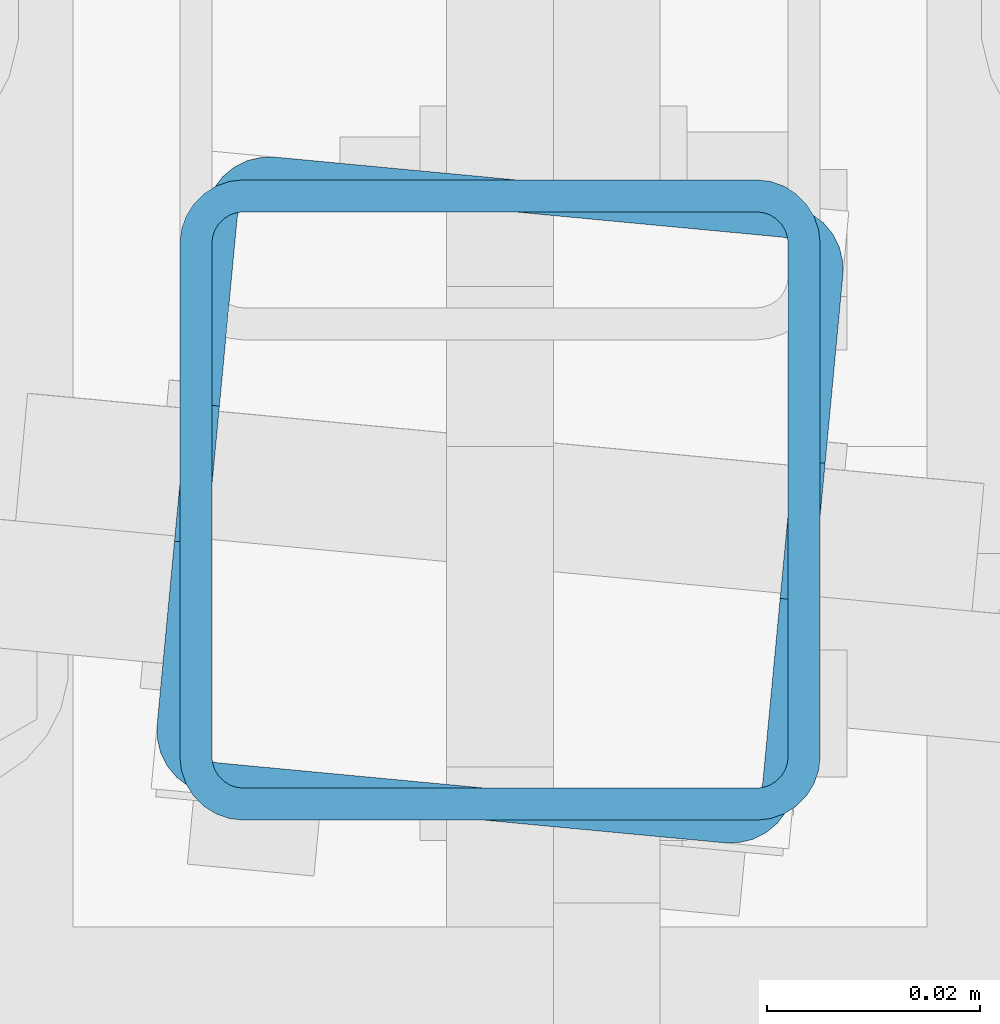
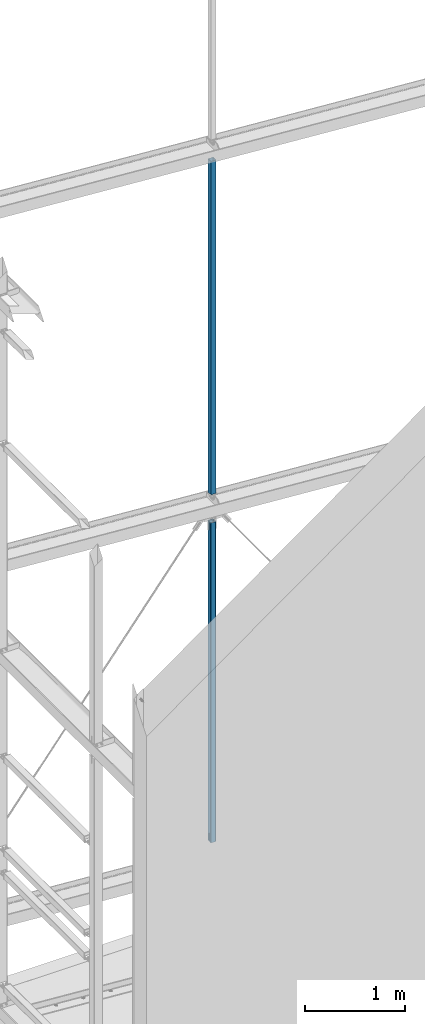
# One storey, part 36 of 271: 2 beams, 2 elements without a shape of their own.
"""IFC2X3 building model written with IfcOpenShell, lengths in millimetres."""

from ifc_helpers import new_model, si_unit, frame, origin_with_axes, origin_2d_with_axis, place, context, subcontext, project, spatial, rectangle, hollow_rectangle, extrude, boolean, clip, halfspace, material, type_object, element, aggregate, save


model = new_model("IFC2X3")

# Units and contexts
model_context = context("Model", 3, precision=1e-05, world=origin_with_axes())
body_context = subcontext(model_context, "Body", "Model", "MODEL_VIEW")
ifc_project = project(units=[si_unit("LENGTHUNIT", "METRE", prefix="MILLI"), si_unit("AREAUNIT", "SQUARE_METRE"), si_unit("VOLUMEUNIT", "CUBIC_METRE"), si_unit("MASSUNIT", "GRAM", prefix="KILO"), si_unit("TIMEUNIT", "SECOND"), si_unit("PLANEANGLEUNIT", "RADIAN"), si_unit("SOLIDANGLEUNIT", "STERADIAN"), si_unit("THERMODYNAMICTEMPERATUREUNIT", "DEGREE_CELSIUS"), si_unit("LUMINOUSINTENSITYUNIT", "LUMEN")], contexts=[model_context])

# Site, building, storey
site_placement = place(None, origin_with_axes())
site = spatial("IfcSite", under=ifc_project, at=site_placement, Name="Undefined", CompositionType="ELEMENT")
building_placement = place(site_placement, origin_with_axes())
building = spatial("IfcBuilding", under=site, at=building_placement, Name="Undefined", CompositionType="ELEMENT")
storey_placement = place(building_placement, origin_with_axes())
storey = spatial("IfcBuildingStorey", under=building, at=storey_placement, Name="Undefined", CompositionType="ELEMENT", Elevation=0.0)

# Assembly, beam
assembly_1_placement = place(storey_placement, origin_with_axes())
assembly_1 = element("IfcElementAssembly", 1, at=assembly_1_placement, inside=storey, AssemblyPlace="NOTDEFINED", PredefinedType="RIGID_FRAME")
ifc_material = material(Name="STEEL/S355JR")
beam_type = type_object("IfcBeamType", Name="SHS60*3", PredefinedType="NOTDEFINED")
beam_1_placement = place(assembly_1_placement, frame((3168.37568709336, 4005.32498425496, 5684.34999990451), z_axis=(0.0, 1.0, 0.0), x_axis=(0.0, 0.0, 1.0)))
beam_1 = element("IfcBeam", 2, at=beam_1_placement, type_object=beam_type, material=ifc_material, Name="TĘŻNIK", ObjectType="SHS60*3", context=body_context, shape_type="Clipping", body=[
    clip(clip(extrude(hollow_rectangle(XDim=60.0, YDim=60.0, WallThickness=3.0, InnerFilletRadius=3.0, OuterFilletRadius=6.0, at=origin_2d_with_axis()), frame((4320.0, 0.0, 9.09494701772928e-13), z_axis=(-1.0, 0.0, 1.38777878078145e-17), x_axis=(0.0, -1.0, 0.0)), (0.0, 0.0, 1.0), 4320.0), halfspace(frame((4188.4000000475, 15.0, 0.0), z_axis=(-1.0, 0.0, 1.38777878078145e-17), x_axis=(0.0, 0.0, 1.0)), True)), halfspace(frame((131.599999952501, 15.0, 0.0), z_axis=(1.0, 0.0, 0.0), x_axis=(0.0, 0.0, -1.0)), True)),
])
aggregate(assembly_1, [beam_1])

assembly_2_placement = place(storey_placement, origin_with_axes())
assembly_2 = element("IfcElementAssembly", 3, at=assembly_2_placement, inside=storey, AssemblyPlace="NOTDEFINED", PredefinedType="RIGID_FRAME")
beam_2_placement = place(assembly_2_placement, frame((3168.37568709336, 4005.32498425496, 1364.34999990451), z_axis=(0.093934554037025, 0.995578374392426, 0.0), x_axis=(0.0, 0.0, 1.0)))
beam_2 = element("IfcBeam", 4, at=beam_2_placement, type_object=beam_type, material=ifc_material, Name="TĘŻNIK", ObjectType="SHS60*3", context=body_context, shape_type="CSG", body=[
    boolean("DIFFERENCE", boolean("DIFFERENCE", boolean("DIFFERENCE", boolean("DIFFERENCE", extrude(hollow_rectangle(XDim=60.0, YDim=60.0, WallThickness=3.0, InnerFilletRadius=3.0, OuterFilletRadius=6.0, at=origin_2d_with_axis()), frame((4320.0, 0.0, 9.09494701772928e-13), z_axis=(-1.0, 0.0, 1.38777878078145e-17), x_axis=(0.0, -1.0, 0.0)), (0.0, 0.0, 1.0), 4320.0), extrude(rectangle(XDim=13.0, YDim=64.0, at=origin_2d_with_axis()), frame((313.312618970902, 2.39387509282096e-06, -0.199285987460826), z_axis=(-1.0, 0.0, 1.38777878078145e-17), x_axis=(0.0, 1.20121738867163e-05, -0.999999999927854)), (0.0, 0.0, 1.0), 103.0)), extrude(rectangle(XDim=13.0, YDim=64.0, at=origin_2d_with_axis()), frame((4006.68851017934, 2.57584542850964e-06, -0.214439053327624), z_axis=(1.0, 0.0, 0.0), x_axis=(0.0, 1.20121738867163e-05, -0.999999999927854)), (0.0, 0.0, 1.0), 103.0)), halfspace(frame((4107.6885406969, 0.000218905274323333, -18.2083857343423), z_axis=(-1.0, 0.0, 1.38777878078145e-17), x_axis=(0.0, 0.999999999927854, 1.20121738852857e-05)), True)), halfspace(frame((212.3126189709, 0.000218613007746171, -18.1992859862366), z_axis=(1.0, 0.0, 0.0), x_axis=(0.0, -0.999999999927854, -1.20121738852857e-05)), True)),
])
aggregate(assembly_2, [beam_2])

save(model, "model.ifc")
